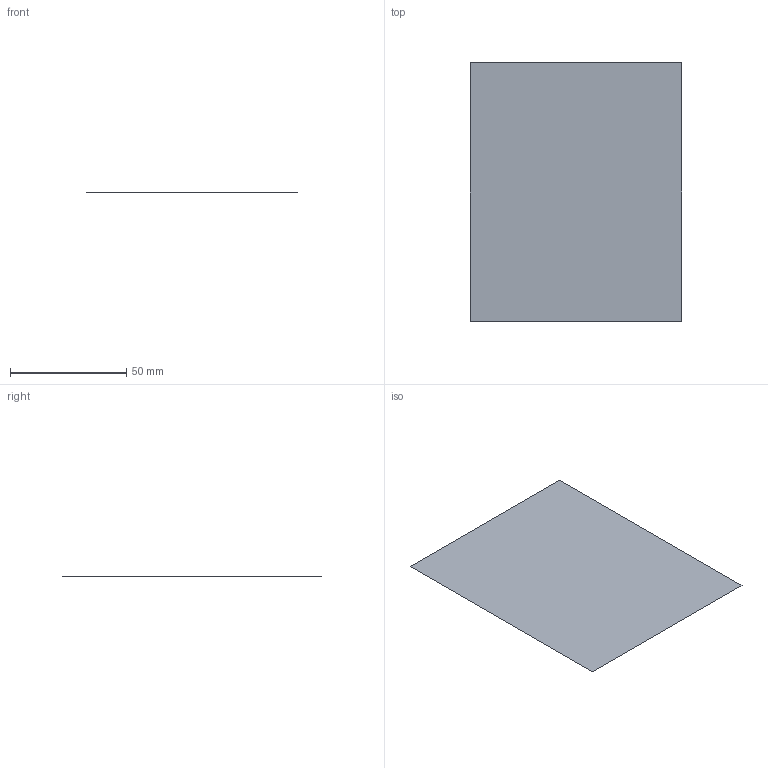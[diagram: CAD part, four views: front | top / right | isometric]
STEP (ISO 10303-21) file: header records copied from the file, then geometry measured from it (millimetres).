
FILE_DESCRIPTION(('CATIA V5 STEP Exchange'),'2;1');
FILE_NAME('C:\_Andres\UNIVERSIDAD\IQS\ASIGNATURAS\DAO\EXF\EXF-15161c\1original\Aloguín_Serramia_Ej06-calculo_v1.stp','2016-03-04T20:57:41+00:00',('none'),('none'),'CATIA Version 5 Release 20 SP 1 (IN-10)','CATIA V5 STEP AP203','none');
FILE_SCHEMA(('CONFIG_CONTROL_DESIGN'));
Length unit declared in the file: millimetre
Products named in the file (1): Aloguín_Serramia_Ej06-calculo_v1
Bounding box: 91 x 111 x 0 mm (x, y, z)
Surface area: 10101 mm2 (no closed solid volume)
Topology: 0 solids, 1 shells, 1 faces, 8 edges, 9 vertices
Faces by surface type: plane 1
Entity records: 130 total; most frequent: CARTESIAN_POINT 23, DIRECTION 12, VECTOR 8, LINE 8, COMPOSITE_CURVE_SEGMENT 4, ORIENTED_EDGE 4, CC_DESIGN_PERSON_AND_ORGANIZATION_ASSIGNMENT 4, PERSON_AND_ORGANIZATION_ROLE 4
